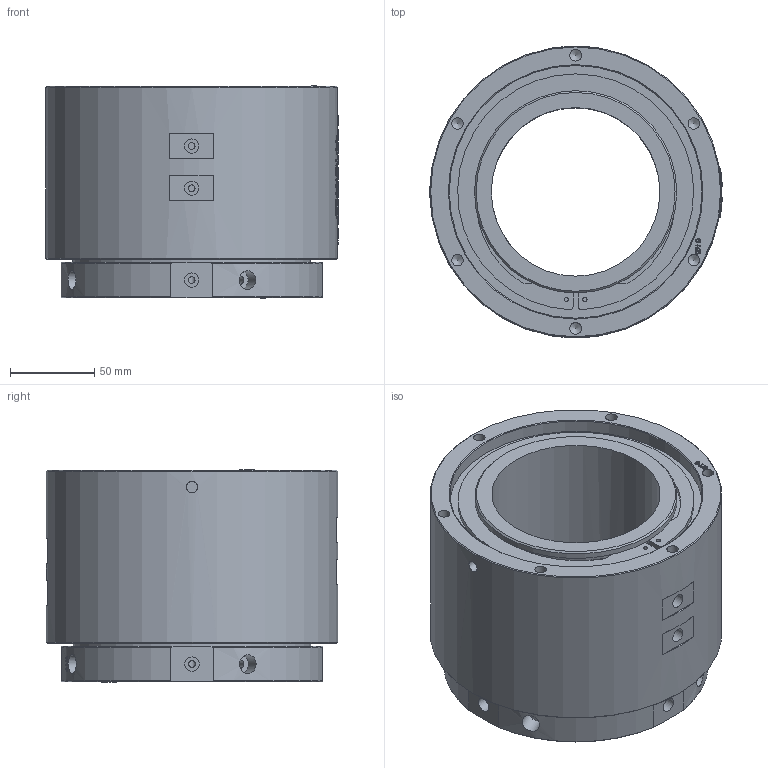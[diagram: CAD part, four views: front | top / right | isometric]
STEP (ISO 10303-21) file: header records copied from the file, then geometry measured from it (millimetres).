
FILE_DESCRIPTION(/* description */ (''),/* implementation_level */ '2;1');
FILE_NAME(/* name */ 'HQ0401-D100-3D模型.stp',/* time_stamp */ '2025-08-06T16:57:11+08:00',/* author */ (''),/* organization */ (''),/* preprocessor_version */ 'ST-DEVELOPER v16.7',/* originating_system */ 'SIEMENS PLM Software NX 12.0',/* authorisation */ '');
FILE_SCHEMA (('AUTOMOTIVE_DESIGN { 1 0 10303 214 3 1 1 1 }'));
Products named in the file (1): Admi3F746D2Ejsm7
Bounding box: 173.43 x 173 x 125.9 mm (x, y, z)
Volume: 1799017.9 mm3; surface area: 164485.9 mm2
Topology: 1 solids, 1 shells, 1231 faces, 3326 edges, 2224 vertices
Faces by surface type: extrusion 610, plane 451, cylinder 90, bspline 58, cone 22
Full cylindrical faces by diameter (mm): 2.5 x2, 4 x12, 4.1 x4, 4.2 x4, 5 x4, 6.8 x12, 8.5 x8, 11 x4, 100 x1, 116 x1, 120 x1, 141 x1, 150 x1, 173 x1
Entity records: 47371 total; most frequent: CARTESIAN_POINT 21522, ORIENTED_EDGE 6404, EDGE_CURVE 3202, B_SPLINE_CURVE_WITH_KNOTS 3006, DIRECTION 2868, VERTEX_POINT 2183, EDGE_LOOP 1441, ADVANCED_FACE 1231
